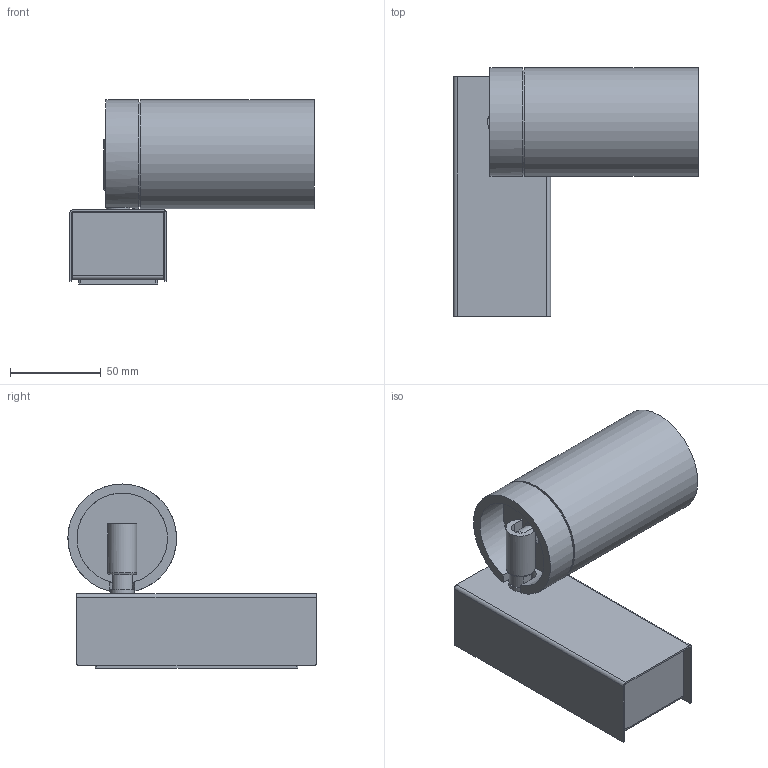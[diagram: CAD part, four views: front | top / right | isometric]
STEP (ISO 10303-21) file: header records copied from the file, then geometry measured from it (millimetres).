
FILE_DESCRIPTION(/* description */ (''),/* implementation_level */ '2;1');
FILE_NAME(/* name */ 'C:\Users\Giulia\Dropbox\DAVIDE GROPPI - 3D MODELS\DAVIDE GROPPI - 3D MODELS_EU\DOT P\1784XX00 - DOT P.stp',/* time_stamp */ '2016-04-05T08:54:01+02:00',/* author */ ('Giulia'),/* organization */ (''),/* preprocessor_version */ 'ST-DEVELOPER v16.1',/* originating_system */ 'Autodesk Inventor 2016',/* authorisation */ '');
FILE_SCHEMA (('AUTOMOTIVE_DESIGN { 1 0 10303 214 3 1 1 }'));
Length unit declared in the file: millimetre
Products named in the file (1): 1784XX00 - DOT P
Bounding box: 135.05 x 137 x 101.6 mm (x, y, z)
Volume: 310692.3 mm3; surface area: 92066.8 mm2
Topology: 2 solids, 2 shells, 154 faces, 357 edges, 219 vertices
Faces by surface type: plane 90, cylinder 58, torus 3, sphere 3
Full cylindrical faces by diameter (mm): 4.5 x2, 13 x1, 16 x1, 50 x2, 58 x2, 60 x2
Entity records: 4474 total; most frequent: CARTESIAN_POINT 769, DIRECTION 766, ORIENTED_EDGE 682, EDGE_CURVE 341, AXIS2_PLACEMENT_3D 275, LINE 216, VECTOR 216, VERTEX_POINT 216
